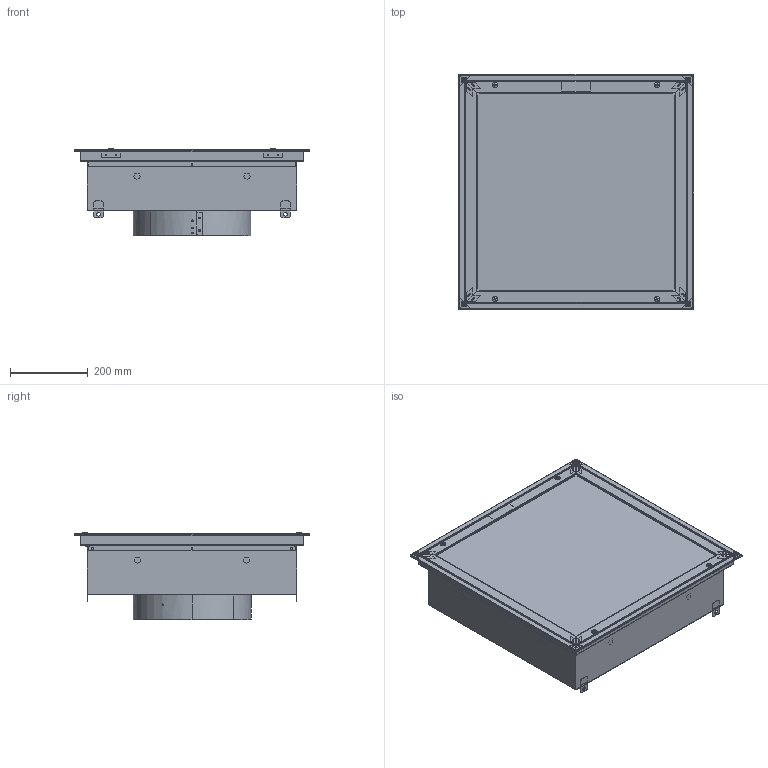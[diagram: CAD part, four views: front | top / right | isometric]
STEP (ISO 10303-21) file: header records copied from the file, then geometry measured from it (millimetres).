
FILE_DESCRIPTION (( 'STEP AP214' ), '1' );
FILE_NAME ('24 X 24_FRD_.STEP', '2025-07-25T19:12:18', ( '' ), ( '' ), 'SwSTEP 2.0', 'SolidWorks 2024', '' );
FILE_SCHEMA (( 'AUTOMOTIVE_DESIGN' ));
Length unit declared in the file: inch
Products named in the file (31): 24 X 24_FRD_; 061325-FRDs_FC2B20-A1_L03; 061325-FRDs_H1F1_L03_1_4 TURN SPRING; 061325-FRDs_FC2B20-A3_L03; 061325-FRDs_FP3B20-A4_L03; 061325-FRDs_FC2B-SUB_L03; 061325-FRDs_PLENUM-SUB_L03; 061325-FRDs_FC2B20-A2_L03; 061325-FRDs_R2C124X24P_L03; 061325-FRDs_FP3B20-A1_L03; 061325-FRDs_FC2B20-A4_L03; 061325-FRDs_H1E2_L03; 061325-FRDs_P1B1B-SUB_L03; 061325-FRDs_H1E3_L03; 061325-FRDs_P1B1B_L03; 061325-FRDs_H1Z24_L03; 061325-FRDs_SAFETYCABLEASSEMBLY-SUB_L03; 061325-FRDs_H1E1_L03; 061325-FRDs_C1C1C112_L03; 061325-FRDs_FP3B-SUB_L03; 061325-FRDs_H1N2_L03; 061325-FRDs_H2E1_L03_WELD CLIP; 40º BEVEL FRAME; 061325-FRDs_FACE-SUB_L03; 061325-FRDs_H2E2_L03_WELD CLIP, BOB FRAME; 061325-FRDs_PLASTER-SUB_L03; 061325-FRDs_FP3B20-A2_L03; 061325-FRDs_R2C1-SUB_L03; 061325-FRDs_H2G12_L03; 061325-FRDs_PERF-SUB_L03; 061325-FRDs_FP3B20-A3_L03; 061325-FRDs_H2E5_L03
Assembly tree (52 placements, depth 5):
  24 X 24_FRD_
    061325-FRDs_PLASTER-SUB_L03
      061325-FRDs_FC2B-SUB_L03
        061325-FRDs_FC2B20-A1_L03
        061325-FRDs_FC2B20-A2_L03
        061325-FRDs_FC2B20-A3_L03
        061325-FRDs_FC2B20-A4_L03
        061325-FRDs_H2E2_L03_WELD CLIP, BOB FRAME  x4
        061325-FRDs_H2G12_L03  x4
        061325-FRDs_H1F1_L03_1_4 TURN SPRING  x4
    061325-FRDs_FACE-SUB_L03
      061325-FRDs_FP3B-SUB_L03
        061325-FRDs_FP3B20-A1_L03
        061325-FRDs_FP3B20-A2_L03
        061325-FRDs_FP3B20-A3_L03
        061325-FRDs_FP3B20-A4_L03
        061325-FRDs_H2E1_L03_WELD CLIP; 40º BEVEL FRAME  x4
        061325-FRDs_H1E1_L03  x4
        061325-FRDs_H1E2_L03  x4
        061325-FRDs_SAFETYCABLEASSEMBLY-SUB_L03  x2
          061325-FRDs_H1N2_L03
          061325-FRDs_H1E3_L03
        061325-FRDs_H1Z24_L03
    061325-FRDs_PERF-SUB_L03
      061325-FRDs_R2C1-SUB_L03
        061325-FRDs_R2C124X24P_L03
    061325-FRDs_PLENUM-SUB_L03
      061325-FRDs_P1B1B-SUB_L03
        061325-FRDs_P1B1B_L03
        061325-FRDs_H2E5_L03  x4
    061325-FRDs_C1C1C112_L03
Bounding box: 603.25 x 603.25 x 223.61 mm (x, y, z)
Volume: 1003595 mm3; surface area: 2425628.6 mm2
Topology: 52 solids, 52 shells, 1716 faces, 4200 edges, 2652 vertices
Faces by surface type: plane 775, cylinder 548, bspline 193, torus 184, sphere 16
Entity records: 40733 total; most frequent: CARTESIAN_POINT 14613, ORIENTED_EDGE 5364, DIRECTION 4918, EDGE_CURVE 2682, VERTEX_POINT 1677, AXIS2_PLACEMENT_3D 1676, VECTOR 1566, LINE 1566
